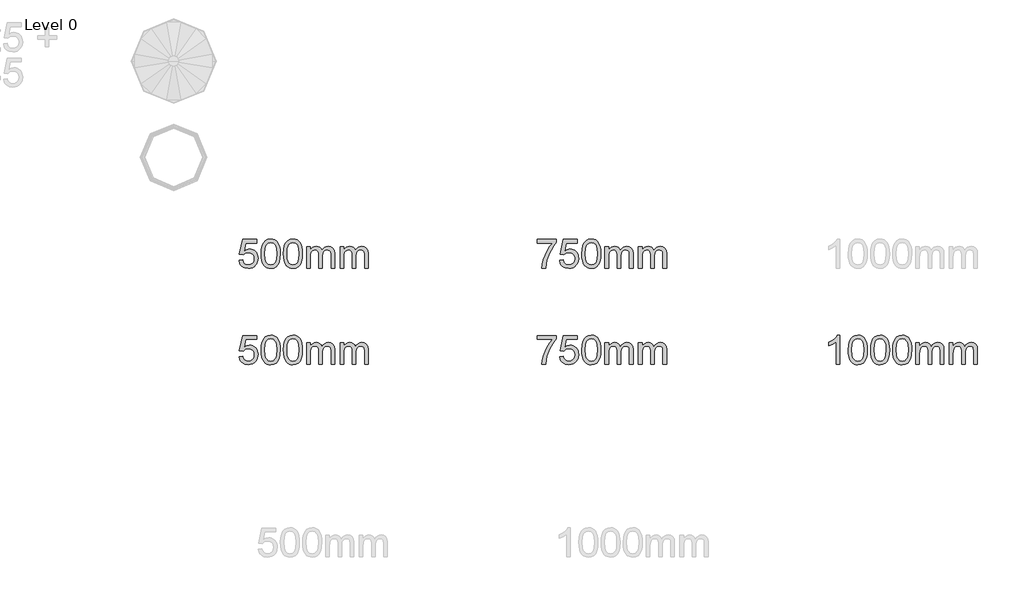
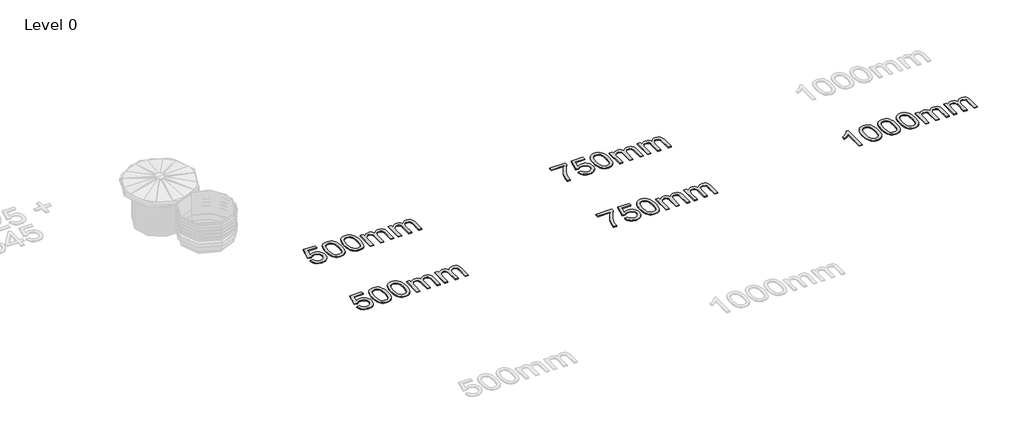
# One storey, part 14 of 25: 5 proxies.
"""IFC4 building model written with IfcOpenShell, lengths in millimetres."""

from ifc_helpers import new_model, si_unit, origin, origin_with_axes, place, context, project, spatial, polyline, outline, extrude, element, save

model = new_model("IFC4")

# Units and contexts
model_context = context("Model", 3, world=origin())
ifc_project = project(units=[si_unit("LENGTHUNIT", "METRE", prefix="MILLI")], contexts=[model_context])

# Site, building, storey
site = spatial("IfcSite", under=ifc_project)
building = spatial("IfcBuilding", under=site)
storey = spatial("IfcBuildingStorey", under=building, Name="Level 0", Elevation=0.0)

# Proxies
placement = place(None, origin())
element("IfcBuildingElementProxy", 1, Name="300mm Arial", ObjectType="300mm Arial", at=placement, inside=storey, context=model_context, shape_type="SweptSolid", body=[
    extrude(outline(polyline([(407.9461268, -3120.925676), (445.6172432, -3116.2167865), (452.5334247, -3138.8323321), (464.5999541, -3155.028337), (481.7616492, -3164.7680128), (503.9633276, -3168.0145714), (530.965866, -3163.4988199), (551.1993758, -3149.9515654), (563.8361223, -3128.9363065), (568.0483711, -3102.0165415), (564.1028367, -3076.669472), (552.2662336, -3057.2820909), (532.4465911, -3044.9764381), (504.5519388, -3040.8745539), (486.2774007, -3042.5116288), (471.4793474, -3047.4228534), (450.3261327, -3064.4190016), (412.6550164, -3059.710112), (445.6172432, -2904.3167573), (591.5928188, -2904.3167573), (591.5928188, -2941.9878736), (476.0778724, -2941.9878736), (459.964641, -3024.9820517), (486.8752089, -3008.6480911), (515.0733638, -3003.2034376), (533.4191791, -3004.8910962), (550.2704737, -3009.9540722), (565.6272478, -3018.3923654), (579.4895012, -3030.205976), (590.9651202, -3044.6729355), (599.1619909, -3061.0712754), (604.0801133, -3079.4009958), (605.7194875, -3099.6620967), (599.8149814, -3137.333213), (592.4343489, -3154.1270261), (582.1014634, -3169.5596758), (566.4480845, -3185.364806), (548.1827434, -3196.6541847), (527.3054402, -3203.427812), (503.8161748, -3205.6856877), (466.8164431, -3199.8823492), (451.1377723, -3192.6281762), (437.3398983, -3182.4723338), (425.8596807, -3169.92066), (417.1339797, -3155.4789924), (407.9461268, -3120.925676)])), origin_with_axes(), (0.0, 0.0, 1.0), 10.0),
    extrude(outline(polyline([(638.6817142, -3052.7203541), (641.4500262, -3004.4818275), (649.7549623, -2966.0105679), (663.5137489, -2936.717964), (682.6436126, -2916.0154047), (707.2825093, -2903.709752), (737.5683945, -2899.6078677), (760.7817484, -2902.0358889), (781.5670811, -2909.3199524), (798.9495054, -2921.1749497), (811.9541339, -2937.3157722), (821.7765832, -2957.6044643), (829.6124697, -2981.9030701), (834.7444235, -3012.7591724), (836.4550748, -3052.7203541), (833.714354, -3100.6829692), (825.4921914, -3139.0622584), (811.8161782, -3168.3824534), (792.7139056, -3189.1677861), (768.0198267, -3201.5562123), (737.5683945, -3205.6856877), (716.81985, -3203.892263), (698.4257502, -3198.5119888), (682.3860952, -3189.5448652), (668.700885, -3176.9908921), (655.5674978, -3154.2971715), (646.1865069, -3126.0208417), (640.5579124, -3092.1619025), (638.6817142, -3052.7203541)]), holes=[polyline([(676.3528305, -3052.6467777), (680.7674145, -3111.9033701), (686.2856444, -3132.1713688), (694.0111663, -3146.1991691), (713.7296412, -3162.5607208), (737.5683945, -3168.0145714), (761.4071478, -3162.5423267), (781.1256228, -3146.1255927), (788.8511447, -3132.0747997), (794.3693746, -3111.8113996), (798.7839585, -3052.6467777), (794.5165274, -2994.7237576), (789.1822384, -2974.5224375), (781.7142339, -2960.1612441), (762.0325472, -2942.9995491), (737.1269361, -2937.278984), (713.5457002, -2942.3189674), (694.5997775, -2957.4389174), (686.6167382, -2973.0739022), (680.9145673, -2994.1535405), (676.3528305, -3052.6467777)])]), origin_with_axes(), (0.0, 0.0, 1.0), 10.0),
    extrude(outline(polyline([(869.4173016, -3052.7203541), (872.1856136, -3004.4818275), (880.4905496, -2966.0105679), (894.2493363, -2936.717964), (913.3792, -2916.0154047), (938.0180966, -2903.709752), (968.3039819, -2899.6078677), (991.5173358, -2902.0358889), (1012.3026685, -2909.3199524), (1029.6850928, -2921.1749497), (1042.6897213, -2937.3157722), (1052.5121706, -2957.6044643), (1060.3480571, -2981.9030701), (1065.4800109, -3012.7591724), (1067.1906622, -3052.7203541), (1064.4499413, -3100.6829692), (1056.2277787, -3139.0622584), (1042.5517656, -3168.3824534), (1023.449493, -3189.1677861), (998.755414, -3201.5562123), (968.3039819, -3205.6856877), (947.5554374, -3203.892263), (929.1613376, -3198.5119888), (913.1216826, -3189.5448652), (899.4364724, -3176.9908921), (886.3030852, -3154.2971715), (876.9220943, -3126.0208417), (871.2934998, -3092.1619025), (869.4173016, -3052.7203541)]), holes=[polyline([(907.0884179, -3052.6467777), (911.5030018, -3111.9033701), (917.0212318, -3132.1713688), (924.7467537, -3146.1991691), (944.4652286, -3162.5607208), (968.3039819, -3168.0145714), (992.1427352, -3162.5423267), (1011.8612101, -3146.1255927), (1019.586732, -3132.0747997), (1025.104962, -3111.8113996), (1029.5195459, -3052.6467777), (1025.2521148, -2994.7237576), (1019.9178258, -2974.5224375), (1012.4498213, -2960.1612441), (992.7681346, -2942.9995491), (967.8625235, -2937.278984), (944.2812876, -2942.3189674), (925.3353649, -2957.4389174), (917.3523256, -2973.0739022), (911.6501546, -2994.1535405), (907.0884179, -3052.6467777)])]), origin_with_axes(), (0.0, 0.0, 1.0), 10.0),
    extrude(outline(polyline([(1109.570668, -3200.9767982), (1109.570668, -2979.6589899), (1147.2417844, -2979.6589899), (1147.2417844, -3016.0793074), (1158.5725498, -2999.3498737), (1173.1406768, -2986.2440776), (1190.4495247, -2977.7735947), (1210.0024527, -2974.9501003), (1230.9533324, -2977.828777), (1247.7471454, -2986.4648068), (1260.2919215, -3000.2879728), (1268.49569, -3018.7280578), (1282.2268854, -2999.5752014), (1297.8894614, -2985.8945897), (1315.4834178, -2977.6862227), (1335.0087547, -2974.9501003), (1363.3264713, -2979.50264), (1384.2681538, -2993.1602591), (1397.208403, -3016.2908395), (1401.5218194, -3049.2622634), (1401.5218194, -3200.9767982), (1363.8507031, -3200.9767982), (1363.8507031, -3065.4490712), (1360.3558242, -3033.9951606), (1355.4445995, -3025.3223425), (1347.7006835, -3018.5073286), (1337.7402785, -3014.0927446), (1326.1795868, -3012.6212166), (1305.7713331, -3016.3920071), (1289.1338699, -3027.7043784), (1278.0698189, -3047.3308829), (1274.3818019, -3076.0440726), (1274.3818019, -3200.9767982), (1236.7106856, -3200.9767982), (1236.7106856, -3061.2552164), (1234.5309848, -3039.9548489), (1227.9918823, -3024.7613225), (1216.4863729, -3015.6562431), (1199.4074513, -3012.6212166), (1184.8945066, -3014.6445676), (1171.521996, -3020.7146205), (1160.4855362, -3030.6842226), (1152.9807435, -3044.406221), (1148.6765241, -3063.4441143), (1147.2417844, -3089.3614008), (1147.2417844, -3200.9767982), (1109.570668, -3200.9767982)])), origin_with_axes(), (0.0, 0.0, 1.0), 10.0),
    extrude(outline(polyline([(1458.0284939, -3200.9767982), (1458.0284939, -2979.6589899), (1495.6996102, -2979.6589899), (1495.6996102, -3016.0793074), (1507.0303756, -2999.3498737), (1521.5985026, -2986.2440776), (1538.9073505, -2977.7735947), (1558.4602786, -2974.9501003), (1579.4111582, -2977.828777), (1596.2049713, -2986.4648068), (1608.7497473, -3000.2879728), (1616.9535158, -3018.7280578), (1630.6847113, -2999.5752014), (1646.3472872, -2985.8945897), (1663.9412436, -2977.6862227), (1683.4665805, -2974.9501003), (1711.7842971, -2979.50264), (1732.7259797, -2993.1602591), (1745.6662289, -3016.2908395), (1749.9796452, -3049.2622634), (1749.9796452, -3200.9767982), (1712.3085289, -3200.9767982), (1712.3085289, -3065.4490712), (1708.81365, -3033.9951606), (1703.9024254, -3025.3223425), (1696.1585094, -3018.5073286), (1686.1981043, -3014.0927446), (1674.6374126, -3012.6212166), (1654.229159, -3016.3920071), (1637.5916957, -3027.7043784), (1626.5276447, -3047.3308829), (1622.8396277, -3076.0440726), (1622.8396277, -3200.9767982), (1585.1685114, -3200.9767982), (1585.1685114, -3061.2552164), (1582.9888106, -3039.9548489), (1576.4497081, -3024.7613225), (1564.9441987, -3015.6562431), (1547.8652771, -3012.6212166), (1533.3523324, -3014.6445676), (1519.9798219, -3020.7146205), (1508.943362, -3030.6842226), (1501.4385693, -3044.406221), (1497.13435, -3063.4441143), (1495.6996102, -3089.3614008), (1495.6996102, -3200.9767982), (1458.0284939, -3200.9767982)])), origin_with_axes(), (0.0, 0.0, 1.0), 10.0),
])
element("IfcBuildingElementProxy", 2, Name="300mm Arial", ObjectType="300mm Arial", at=placement, inside=storey, context=model_context, shape_type="SweptSolid", body=[
    extrude(outline(polyline([(3508.6610417, -2941.9878736), (3508.6610417, -2904.3167573), (3706.4344023, -2904.3167573), (3706.4344023, -2934.7773865), (3678.2454444, -2970.452743), (3650.332398, -3015.82179), (3625.7118955, -3066.7458552), (3607.4005692, -3119.0862661), (3598.4242485, -3158.2473044), (3593.4210534, -3200.9767982), (3555.7499371, -3200.9767982), (3559.8242301, -3162.1468536), (3570.7227343, -3115.9960573), (3588.1511438, -3067.076949), (3611.8151531, -3019.9420684), (3639.443091, -2977.3321363), (3668.763286, -2941.9878736), (3508.6610417, -2941.9878736)])), origin_with_axes(), (0.0, 0.0, 1.0), 10.0),
    extrude(outline(polyline([(3739.396629, -3120.925676), (3777.0677453, -3116.2167865), (3783.9839269, -3138.8323321), (3796.0504563, -3155.028337), (3813.2121514, -3164.7680128), (3835.4138298, -3168.0145714), (3862.4163682, -3163.4988199), (3882.649878, -3149.9515654), (3895.2866245, -3128.9363065), (3899.4988733, -3102.0165415), (3895.5533389, -3076.669472), (3883.7167358, -3057.2820909), (3863.8970933, -3044.9764381), (3836.002441, -3040.8745539), (3817.7279029, -3042.5116288), (3802.9298496, -3047.4228534), (3781.7766349, -3064.4190016), (3744.1055186, -3059.710112), (3777.0677453, -2904.3167573), (3923.043321, -2904.3167573), (3923.043321, -2941.9878736), (3807.5283745, -2941.9878736), (3791.4151432, -3024.9820517), (3818.3257111, -3008.6480911), (3846.523866, -3003.2034376), (3864.8696813, -3004.8910962), (3881.7209759, -3009.9540722), (3897.07775, -3018.3923654), (3910.9400034, -3030.205976), (3922.4156224, -3044.6729355), (3930.6124931, -3061.0712754), (3935.5306155, -3079.4009958), (3937.1699896, -3099.6620967), (3931.2654836, -3137.333213), (3923.8848511, -3154.1270261), (3913.5519656, -3169.5596758), (3897.8985867, -3185.364806), (3879.6332456, -3196.6541847), (3858.7559424, -3203.427812), (3835.266677, -3205.6856877), (3798.2669453, -3199.8823492), (3782.5882745, -3192.6281762), (3768.7904005, -3182.4723338), (3757.3101829, -3169.92066), (3748.5844819, -3155.4789924), (3739.396629, -3120.925676)])), origin_with_axes(), (0.0, 0.0, 1.0), 10.0),
    extrude(outline(polyline([(3970.1322164, -3052.7203541), (3972.9005284, -3004.4818275), (3981.2054645, -2966.0105679), (3994.9642511, -2936.717964), (4014.0941148, -2916.0154047), (4038.7330115, -2903.709752), (4069.0188967, -2899.6078677), (4092.2322506, -2902.0358889), (4113.0175833, -2909.3199524), (4130.4000076, -2921.1749497), (4143.4046361, -2937.3157722), (4153.2270854, -2957.6044643), (4161.0629719, -2981.9030701), (4166.1949257, -3012.7591724), (4167.905577, -3052.7203541), (4165.1648562, -3100.6829692), (4156.9426936, -3139.0622584), (4143.2666804, -3168.3824534), (4124.1644078, -3189.1677861), (4099.4703289, -3201.5562123), (4069.0188967, -3205.6856877), (4048.2703522, -3203.892263), (4029.8762524, -3198.5119888), (4013.8365974, -3189.5448652), (4000.1513872, -3176.9908921), (3987.018, -3154.2971715), (3977.6370091, -3126.0208417), (3972.0084146, -3092.1619025), (3970.1322164, -3052.7203541)]), holes=[polyline([(4007.8033327, -3052.6467777), (4012.2179167, -3111.9033701), (4017.7361466, -3132.1713688), (4025.4616685, -3146.1991691), (4045.1801434, -3162.5607208), (4069.0188967, -3168.0145714), (4092.85765, -3162.5423267), (4112.576125, -3146.1255927), (4120.3016468, -3132.0747997), (4125.8198768, -3111.8113996), (4130.2344607, -3052.6467777), (4125.9670296, -2994.7237576), (4120.6327406, -2974.5224375), (4113.1647361, -2960.1612441), (4093.4830494, -2942.9995491), (4068.5774383, -2937.278984), (4044.9962024, -2942.3189674), (4026.0502797, -2957.4389174), (4018.0672404, -2973.0739022), (4012.3650695, -2994.1535405), (4007.8033327, -3052.6467777)])]), origin_with_axes(), (0.0, 0.0, 1.0), 10.0),
    extrude(outline(polyline([(4210.2855829, -3200.9767982), (4210.2855829, -2979.6589899), (4247.9566992, -2979.6589899), (4247.9566992, -3016.0793074), (4259.2874646, -2999.3498737), (4273.8555916, -2986.2440776), (4291.1644395, -2977.7735947), (4310.7173676, -2974.9501003), (4331.6682472, -2977.828777), (4348.4620603, -2986.4648068), (4361.0068363, -3000.2879728), (4369.2106048, -3018.7280578), (4382.9418003, -2999.5752014), (4398.6043762, -2985.8945897), (4416.1983326, -2977.6862227), (4435.7236695, -2974.9501003), (4464.0413861, -2979.50264), (4484.9830687, -2993.1602591), (4497.9233178, -3016.2908395), (4502.2367342, -3049.2622634), (4502.2367342, -3200.9767982), (4464.5656179, -3200.9767982), (4464.5656179, -3065.4490712), (4461.070739, -3033.9951606), (4456.1595143, -3025.3223425), (4448.4155983, -3018.5073286), (4438.4551933, -3014.0927446), (4426.8945016, -3012.6212166), (4406.4862479, -3016.3920071), (4389.8487847, -3027.7043784), (4378.7847337, -3047.3308829), (4375.0967167, -3076.0440726), (4375.0967167, -3200.9767982), (4337.4256004, -3200.9767982), (4337.4256004, -3061.2552164), (4335.2458996, -3039.9548489), (4328.7067971, -3024.7613225), (4317.2012877, -3015.6562431), (4300.1223661, -3012.6212166), (4285.6094214, -3014.6445676), (4272.2369109, -3020.7146205), (4261.200451, -3030.6842226), (4253.6956583, -3044.406221), (4249.391439, -3063.4441143), (4247.9566992, -3089.3614008), (4247.9566992, -3200.9767982), (4210.2855829, -3200.9767982)])), origin_with_axes(), (0.0, 0.0, 1.0), 10.0),
    extrude(outline(polyline([(4558.7434087, -3200.9767982), (4558.7434087, -2979.6589899), (4596.414525, -2979.6589899), (4596.414525, -3016.0793074), (4607.7452905, -2999.3498737), (4622.3134175, -2986.2440776), (4639.6222653, -2977.7735947), (4659.1751934, -2974.9501003), (4680.126073, -2977.828777), (4696.9198861, -2986.4648068), (4709.4646621, -3000.2879728), (4717.6684306, -3018.7280578), (4731.3996261, -2999.5752014), (4747.062202, -2985.8945897), (4764.6561585, -2977.6862227), (4784.1814953, -2974.9501003), (4812.4992119, -2979.50264), (4833.4408945, -2993.1602591), (4846.3811437, -3016.2908395), (4850.6945601, -3049.2622634), (4850.6945601, -3200.9767982), (4813.0234438, -3200.9767982), (4813.0234438, -3065.4490712), (4809.5285648, -3033.9951606), (4804.6173402, -3025.3223425), (4796.8734242, -3018.5073286), (4786.9130192, -3014.0927446), (4775.3523275, -3012.6212166), (4754.9440738, -3016.3920071), (4738.3066105, -3027.7043784), (4727.2425595, -3047.3308829), (4723.5545425, -3076.0440726), (4723.5545425, -3200.9767982), (4685.8834262, -3200.9767982), (4685.8834262, -3061.2552164), (4683.7037254, -3039.9548489), (4677.1646229, -3024.7613225), (4665.6591135, -3015.6562431), (4648.5801919, -3012.6212166), (4634.0672472, -3014.6445676), (4620.6947367, -3020.7146205), (4609.6582768, -3030.6842226), (4602.1534841, -3044.406221), (4597.8492648, -3063.4441143), (4596.414525, -3089.3614008), (4596.414525, -3200.9767982), (4558.7434087, -3200.9767982)])), origin_with_axes(), (0.0, 0.0, 1.0), 10.0),
])
element("IfcBuildingElementProxy", 3, Name="300mm Arial", ObjectType="300mm Arial", at=placement, inside=storey, context=model_context, shape_type="SweptSolid", body=[
    extrude(outline(polyline([(6649.9277278, -3200.9767982), (6612.2566115, -3200.9767982), (6612.2566115, -2966.1209325), (6576.572058, -2991.5415783), (6536.9143789, -3010.5610775), (6536.9143789, -2974.9501003), (6566.5012884, -2958.8552631), (6592.1334664, -2939.7070052), (6612.339385, -2919.3447368), (6625.6475161, -2899.6078677), (6649.9277278, -2899.6078677), (6649.9277278, -3200.9767982)])), origin_with_axes(), (0.0, 0.0, 1.0), 10.0),
    extrude(outline(polyline([(6739.396629, -3052.7203541), (6742.1649411, -3004.4818275), (6750.4698771, -2966.0105679), (6764.2286637, -2936.717964), (6783.3585275, -2916.0154047), (6807.9974241, -2903.709752), (6838.2833093, -2899.6078677), (6861.4966632, -2902.0358889), (6882.281996, -2909.3199524), (6899.6644202, -2921.1749497), (6912.6690488, -2937.3157722), (6922.491498, -2957.6044643), (6930.3273845, -2981.9030701), (6935.4593384, -3012.7591724), (6937.1699896, -3052.7203541), (6934.4292688, -3100.6829692), (6926.2071062, -3139.0622584), (6912.531093, -3168.3824534), (6893.4288204, -3189.1677861), (6868.7347415, -3201.5562123), (6838.2833093, -3205.6856877), (6817.5347648, -3203.892263), (6799.1406651, -3198.5119888), (6783.1010101, -3189.5448652), (6769.4157998, -3176.9908921), (6756.2824126, -3154.2971715), (6746.9014217, -3126.0208417), (6741.2728272, -3092.1619025), (6739.396629, -3052.7203541)]), holes=[polyline([(6777.0677453, -3052.6467777), (6781.4823293, -3111.9033701), (6787.0005592, -3132.1713688), (6794.7260811, -3146.1991691), (6814.4445561, -3162.5607208), (6838.2833093, -3168.0145714), (6862.1220626, -3162.5423267), (6881.8405376, -3146.1255927), (6889.5660595, -3132.0747997), (6895.0842894, -3111.8113996), (6899.4988733, -3052.6467777), (6895.2314422, -2994.7237576), (6889.8971533, -2974.5224375), (6882.4291488, -2960.1612441), (6862.747462, -2942.9995491), (6837.841851, -2937.278984), (6814.2606151, -2942.3189674), (6795.3146923, -2957.4389174), (6787.331653, -2973.0739022), (6781.6294821, -2994.1535405), (6777.0677453, -3052.6467777)])]), origin_with_axes(), (0.0, 0.0, 1.0), 10.0),
    extrude(outline(polyline([(6970.1322164, -3052.7203541), (6972.9005284, -3004.4818275), (6981.2054645, -2966.0105679), (6994.9642511, -2936.717964), (7014.0941148, -2916.0154047), (7038.7330115, -2903.709752), (7069.0188967, -2899.6078677), (7092.2322506, -2902.0358889), (7113.0175833, -2909.3199524), (7130.4000076, -2921.1749497), (7143.4046361, -2937.3157722), (7153.2270854, -2957.6044643), (7161.0629719, -2981.9030701), (7166.1949257, -3012.7591724), (7167.905577, -3052.7203541), (7165.1648562, -3100.6829692), (7156.9426936, -3139.0622584), (7143.2666804, -3168.3824534), (7124.1644078, -3189.1677861), (7099.4703289, -3201.5562123), (7069.0188967, -3205.6856877), (7048.2703522, -3203.892263), (7029.8762524, -3198.5119888), (7013.8365974, -3189.5448652), (7000.1513872, -3176.9908921), (6987.018, -3154.2971715), (6977.6370091, -3126.0208417), (6972.0084146, -3092.1619025), (6970.1322164, -3052.7203541)]), holes=[polyline([(7007.8033327, -3052.6467777), (7012.2179167, -3111.9033701), (7017.7361466, -3132.1713688), (7025.4616685, -3146.1991691), (7045.1801434, -3162.5607208), (7069.0188967, -3168.0145714), (7092.85765, -3162.5423267), (7112.576125, -3146.1255927), (7120.3016468, -3132.0747997), (7125.8198768, -3111.8113996), (7130.2344607, -3052.6467777), (7125.9670296, -2994.7237576), (7120.6327406, -2974.5224375), (7113.1647361, -2960.1612441), (7093.4830494, -2942.9995491), (7068.5774383, -2937.278984), (7044.9962024, -2942.3189674), (7026.0502797, -2957.4389174), (7018.0672404, -2973.0739022), (7012.3650695, -2994.1535405), (7007.8033327, -3052.6467777)])]), origin_with_axes(), (0.0, 0.0, 1.0), 10.0),
    extrude(outline(polyline([(7200.8678038, -3052.7203541), (7203.6361158, -3004.4818275), (7211.9410518, -2966.0105679), (7225.6998385, -2936.717964), (7244.8297022, -2916.0154047), (7269.4685988, -2903.709752), (7299.7544841, -2899.6078677), (7322.967838, -2902.0358889), (7343.7531707, -2909.3199524), (7361.135595, -2921.1749497), (7374.1402235, -2937.3157722), (7383.9626728, -2957.6044643), (7391.7985593, -2981.9030701), (7396.9305131, -3012.7591724), (7398.6411644, -3052.7203541), (7395.9004435, -3100.6829692), (7387.6782809, -3139.0622584), (7374.0022678, -3168.3824534), (7354.8999952, -3189.1677861), (7330.2059162, -3201.5562123), (7299.7544841, -3205.6856877), (7279.0059396, -3203.892263), (7260.6118398, -3198.5119888), (7244.5721848, -3189.5448652), (7230.8869746, -3176.9908921), (7217.7535874, -3154.2971715), (7208.3725965, -3126.0208417), (7202.744002, -3092.1619025), (7200.8678038, -3052.7203541)]), holes=[polyline([(7238.5389201, -3052.6467777), (7242.953504, -3111.9033701), (7248.471734, -3132.1713688), (7256.1972559, -3146.1991691), (7275.9157308, -3162.5607208), (7299.7544841, -3168.0145714), (7323.5932374, -3162.5423267), (7343.3117123, -3146.1255927), (7351.0372342, -3132.0747997), (7356.5554642, -3111.8113996), (7360.9700481, -3052.6467777), (7356.7026169, -2994.7237576), (7351.368328, -2974.5224375), (7343.9003235, -2960.1612441), (7324.2186368, -2942.9995491), (7299.3130257, -2937.278984), (7275.7317898, -2942.3189674), (7256.7858671, -2957.4389174), (7248.8028278, -2973.0739022), (7243.1006568, -2994.1535405), (7238.5389201, -3052.6467777)])]), origin_with_axes(), (0.0, 0.0, 1.0), 10.0),
    extrude(outline(polyline([(7441.0211702, -3200.9767982), (7441.0211702, -2979.6589899), (7478.6922866, -2979.6589899), (7478.6922866, -3016.0793074), (7490.023052, -2999.3498737), (7504.591179, -2986.2440776), (7521.9000269, -2977.7735947), (7541.4529549, -2974.9501003), (7562.4038346, -2977.828777), (7579.1976476, -2986.4648068), (7591.7424237, -3000.2879728), (7599.9461922, -3018.7280578), (7613.6773876, -2999.5752014), (7629.3399636, -2985.8945897), (7646.93392, -2977.6862227), (7666.4592569, -2974.9501003), (7694.7769735, -2979.50264), (7715.718656, -2993.1602591), (7728.6589052, -3016.2908395), (7732.9723216, -3049.2622634), (7732.9723216, -3200.9767982), (7695.3012053, -3200.9767982), (7695.3012053, -3065.4490712), (7691.8063264, -3033.9951606), (7686.8951017, -3025.3223425), (7679.1511857, -3018.5073286), (7669.1907807, -3014.0927446), (7657.630089, -3012.6212166), (7637.2218353, -3016.3920071), (7620.5843721, -3027.7043784), (7609.5203211, -3047.3308829), (7605.8323041, -3076.0440726), (7605.8323041, -3200.9767982), (7568.1611878, -3200.9767982), (7568.1611878, -3061.2552164), (7565.981487, -3039.9548489), (7559.4423845, -3024.7613225), (7547.9368751, -3015.6562431), (7530.8579535, -3012.6212166), (7516.3450088, -3014.6445676), (7502.9724982, -3020.7146205), (7491.9360384, -3030.6842226), (7484.4312457, -3044.406221), (7480.1270263, -3063.4441143), (7478.6922866, -3089.3614008), (7478.6922866, -3200.9767982), (7441.0211702, -3200.9767982)])), origin_with_axes(), (0.0, 0.0, 1.0), 10.0),
    extrude(outline(polyline([(7789.4789961, -3200.9767982), (7789.4789961, -2979.6589899), (7827.1501124, -2979.6589899), (7827.1501124, -3016.0793074), (7838.4808778, -2999.3498737), (7853.0490048, -2986.2440776), (7870.3578527, -2977.7735947), (7889.9107808, -2974.9501003), (7910.8616604, -2977.828777), (7927.6554735, -2986.4648068), (7940.2002495, -3000.2879728), (7948.404018, -3018.7280578), (7962.1352135, -2999.5752014), (7977.7977894, -2985.8945897), (7995.3917458, -2977.6862227), (8014.9170827, -2974.9501003), (8043.2347993, -2979.50264), (8064.1764819, -2993.1602591), (8077.1167311, -3016.2908395), (8081.4301474, -3049.2622634), (8081.4301474, -3200.9767982), (8043.7590311, -3200.9767982), (8043.7590311, -3065.4490712), (8040.2641522, -3033.9951606), (8035.3529276, -3025.3223425), (8027.6090116, -3018.5073286), (8017.6486065, -3014.0927446), (8006.0879148, -3012.6212166), (7985.6796612, -3016.3920071), (7969.0421979, -3027.7043784), (7957.9781469, -3047.3308829), (7954.2901299, -3076.0440726), (7954.2901299, -3200.9767982), (7916.6190136, -3200.9767982), (7916.6190136, -3061.2552164), (7914.4393128, -3039.9548489), (7907.9002103, -3024.7613225), (7896.3947009, -3015.6562431), (7879.3157793, -3012.6212166), (7864.8028346, -3014.6445676), (7851.4303241, -3020.7146205), (7840.3938642, -3030.6842226), (7832.8890715, -3044.406221), (7828.5848522, -3063.4441143), (7827.1501124, -3089.3614008), (7827.1501124, -3200.9767982), (7789.4789961, -3200.9767982)])), origin_with_axes(), (0.0, 0.0, 1.0), 10.0),
])
element("IfcBuildingElementProxy", 4, Name="300mm Arial", ObjectType="300mm Arial", at=placement, inside=storey, context=model_context, shape_type="SweptSolid", body=[
    extrude(outline(polyline([(407.9461268, -2120.925676), (445.6172432, -2116.2167865), (452.5334247, -2138.8323321), (464.5999541, -2155.028337), (481.7616492, -2164.7680128), (503.9633276, -2168.0145714), (530.965866, -2163.4988199), (551.1993758, -2149.9515654), (563.8361223, -2128.9363065), (568.0483711, -2102.0165415), (564.1028367, -2076.669472), (552.2662336, -2057.2820909), (532.4465911, -2044.9764381), (504.5519388, -2040.8745539), (486.2774007, -2042.5116288), (471.4793474, -2047.4228534), (450.3261327, -2064.4190016), (412.6550164, -2059.710112), (445.6172432, -1904.3167573), (591.5928188, -1904.3167573), (591.5928188, -1941.9878736), (476.0778724, -1941.9878736), (459.964641, -2024.9820517), (486.8752089, -2008.6480911), (515.0733638, -2003.2034376), (533.4191791, -2004.8910962), (550.2704737, -2009.9540722), (565.6272478, -2018.3923654), (579.4895012, -2030.205976), (590.9651202, -2044.6729355), (599.1619909, -2061.0712754), (604.0801133, -2079.4009958), (605.7194875, -2099.6620967), (599.8149814, -2137.333213), (592.4343489, -2154.1270261), (582.1014634, -2169.5596758), (566.4480845, -2185.364806), (548.1827434, -2196.6541847), (527.3054402, -2203.427812), (503.8161748, -2205.6856877), (466.8164431, -2199.8823492), (451.1377723, -2192.6281762), (437.3398983, -2182.4723338), (425.8596807, -2169.92066), (417.1339797, -2155.4789924), (407.9461268, -2120.925676)])), origin_with_axes(), (0.0, 0.0, 1.0), 10.0),
    extrude(outline(polyline([(638.6817142, -2052.7203541), (641.4500262, -2004.4818275), (649.7549623, -1966.0105679), (663.5137489, -1936.717964), (682.6436126, -1916.0154047), (707.2825093, -1903.709752), (737.5683945, -1899.6078677), (760.7817484, -1902.0358889), (781.5670811, -1909.3199524), (798.9495054, -1921.1749497), (811.9541339, -1937.3157722), (821.7765832, -1957.6044643), (829.6124697, -1981.9030701), (834.7444235, -2012.7591724), (836.4550748, -2052.7203541), (833.714354, -2100.6829692), (825.4921914, -2139.0622584), (811.8161782, -2168.3824534), (792.7139056, -2189.1677861), (768.0198267, -2201.5562123), (737.5683945, -2205.6856877), (716.81985, -2203.892263), (698.4257502, -2198.5119888), (682.3860952, -2189.5448652), (668.700885, -2176.9908921), (655.5674978, -2154.2971715), (646.1865069, -2126.0208417), (640.5579124, -2092.1619025), (638.6817142, -2052.7203541)]), holes=[polyline([(676.3528305, -2052.6467777), (680.7674145, -2111.9033701), (686.2856444, -2132.1713688), (694.0111663, -2146.1991691), (713.7296412, -2162.5607208), (737.5683945, -2168.0145714), (761.4071478, -2162.5423267), (781.1256228, -2146.1255927), (788.8511447, -2132.0747997), (794.3693746, -2111.8113996), (798.7839585, -2052.6467777), (794.5165274, -1994.7237576), (789.1822384, -1974.5224375), (781.7142339, -1960.1612441), (762.0325472, -1942.9995491), (737.1269361, -1937.278984), (713.5457002, -1942.3189674), (694.5997775, -1957.4389174), (686.6167382, -1973.0739022), (680.9145673, -1994.1535405), (676.3528305, -2052.6467777)])]), origin_with_axes(), (0.0, 0.0, 1.0), 10.0),
    extrude(outline(polyline([(869.4173016, -2052.7203541), (872.1856136, -2004.4818275), (880.4905496, -1966.0105679), (894.2493363, -1936.717964), (913.3792, -1916.0154047), (938.0180966, -1903.709752), (968.3039819, -1899.6078677), (991.5173358, -1902.0358889), (1012.3026685, -1909.3199524), (1029.6850928, -1921.1749497), (1042.6897213, -1937.3157722), (1052.5121706, -1957.6044643), (1060.3480571, -1981.9030701), (1065.4800109, -2012.7591724), (1067.1906622, -2052.7203541), (1064.4499413, -2100.6829692), (1056.2277787, -2139.0622584), (1042.5517656, -2168.3824534), (1023.449493, -2189.1677861), (998.755414, -2201.5562123), (968.3039819, -2205.6856877), (947.5554374, -2203.892263), (929.1613376, -2198.5119888), (913.1216826, -2189.5448652), (899.4364724, -2176.9908921), (886.3030852, -2154.2971715), (876.9220943, -2126.0208417), (871.2934998, -2092.1619025), (869.4173016, -2052.7203541)]), holes=[polyline([(907.0884179, -2052.6467777), (911.5030018, -2111.9033701), (917.0212318, -2132.1713688), (924.7467537, -2146.1991691), (944.4652286, -2162.5607208), (968.3039819, -2168.0145714), (992.1427352, -2162.5423267), (1011.8612101, -2146.1255927), (1019.586732, -2132.0747997), (1025.104962, -2111.8113996), (1029.5195459, -2052.6467777), (1025.2521148, -1994.7237576), (1019.9178258, -1974.5224375), (1012.4498213, -1960.1612441), (992.7681346, -1942.9995491), (967.8625235, -1937.278984), (944.2812876, -1942.3189674), (925.3353649, -1957.4389174), (917.3523256, -1973.0739022), (911.6501546, -1994.1535405), (907.0884179, -2052.6467777)])]), origin_with_axes(), (0.0, 0.0, 1.0), 10.0),
    extrude(outline(polyline([(1109.570668, -2200.9767982), (1109.570668, -1979.6589899), (1147.2417844, -1979.6589899), (1147.2417844, -2016.0793074), (1158.5725498, -1999.3498737), (1173.1406768, -1986.2440776), (1190.4495247, -1977.7735947), (1210.0024527, -1974.9501003), (1230.9533324, -1977.828777), (1247.7471454, -1986.4648068), (1260.2919215, -2000.2879728), (1268.49569, -2018.7280578), (1282.2268854, -1999.5752014), (1297.8894614, -1985.8945897), (1315.4834178, -1977.6862227), (1335.0087547, -1974.9501003), (1363.3264713, -1979.50264), (1384.2681538, -1993.1602591), (1397.208403, -2016.2908395), (1401.5218194, -2049.2622634), (1401.5218194, -2200.9767982), (1363.8507031, -2200.9767982), (1363.8507031, -2065.4490712), (1360.3558242, -2033.9951606), (1355.4445995, -2025.3223425), (1347.7006835, -2018.5073286), (1337.7402785, -2014.0927446), (1326.1795868, -2012.6212166), (1305.7713331, -2016.3920071), (1289.1338699, -2027.7043784), (1278.0698189, -2047.3308829), (1274.3818019, -2076.0440726), (1274.3818019, -2200.9767982), (1236.7106856, -2200.9767982), (1236.7106856, -2061.2552164), (1234.5309848, -2039.9548489), (1227.9918823, -2024.7613225), (1216.4863729, -2015.6562431), (1199.4074513, -2012.6212166), (1184.8945066, -2014.6445676), (1171.521996, -2020.7146205), (1160.4855362, -2030.6842226), (1152.9807435, -2044.406221), (1148.6765241, -2063.4441143), (1147.2417844, -2089.3614008), (1147.2417844, -2200.9767982), (1109.570668, -2200.9767982)])), origin_with_axes(), (0.0, 0.0, 1.0), 10.0),
    extrude(outline(polyline([(1458.0284939, -2200.9767982), (1458.0284939, -1979.6589899), (1495.6996102, -1979.6589899), (1495.6996102, -2016.0793074), (1507.0303756, -1999.3498737), (1521.5985026, -1986.2440776), (1538.9073505, -1977.7735947), (1558.4602786, -1974.9501003), (1579.4111582, -1977.828777), (1596.2049713, -1986.4648068), (1608.7497473, -2000.2879728), (1616.9535158, -2018.7280578), (1630.6847113, -1999.5752014), (1646.3472872, -1985.8945897), (1663.9412436, -1977.6862227), (1683.4665805, -1974.9501003), (1711.7842971, -1979.50264), (1732.7259797, -1993.1602591), (1745.6662289, -2016.2908395), (1749.9796452, -2049.2622634), (1749.9796452, -2200.9767982), (1712.3085289, -2200.9767982), (1712.3085289, -2065.4490712), (1708.81365, -2033.9951606), (1703.9024254, -2025.3223425), (1696.1585094, -2018.5073286), (1686.1981043, -2014.0927446), (1674.6374126, -2012.6212166), (1654.229159, -2016.3920071), (1637.5916957, -2027.7043784), (1626.5276447, -2047.3308829), (1622.8396277, -2076.0440726), (1622.8396277, -2200.9767982), (1585.1685114, -2200.9767982), (1585.1685114, -2061.2552164), (1582.9888106, -2039.9548489), (1576.4497081, -2024.7613225), (1564.9441987, -2015.6562431), (1547.8652771, -2012.6212166), (1533.3523324, -2014.6445676), (1519.9798219, -2020.7146205), (1508.943362, -2030.6842226), (1501.4385693, -2044.406221), (1497.13435, -2063.4441143), (1495.6996102, -2089.3614008), (1495.6996102, -2200.9767982), (1458.0284939, -2200.9767982)])), origin_with_axes(), (0.0, 0.0, 1.0), 10.0),
])
element("IfcBuildingElementProxy", 5, Name="300mm Arial", ObjectType="300mm Arial", at=placement, inside=storey, context=model_context, shape_type="SweptSolid", body=[
    extrude(outline(polyline([(3508.6610417, -1941.9878736), (3508.6610417, -1904.3167573), (3706.4344023, -1904.3167573), (3706.4344023, -1934.7773865), (3678.2454444, -1970.452743), (3650.332398, -2015.82179), (3625.7118955, -2066.7458552), (3607.4005692, -2119.0862661), (3598.4242485, -2158.2473044), (3593.4210534, -2200.9767982), (3555.7499371, -2200.9767982), (3559.8242301, -2162.1468536), (3570.7227343, -2115.9960573), (3588.1511438, -2067.076949), (3611.8151531, -2019.9420684), (3639.443091, -1977.3321363), (3668.763286, -1941.9878736), (3508.6610417, -1941.9878736)])), origin_with_axes(), (0.0, 0.0, 1.0), 10.0),
    extrude(outline(polyline([(3739.396629, -2120.925676), (3777.0677453, -2116.2167865), (3783.9839269, -2138.8323321), (3796.0504563, -2155.028337), (3813.2121514, -2164.7680128), (3835.4138298, -2168.0145714), (3862.4163682, -2163.4988199), (3882.649878, -2149.9515654), (3895.2866245, -2128.9363065), (3899.4988733, -2102.0165415), (3895.5533389, -2076.669472), (3883.7167358, -2057.2820909), (3863.8970933, -2044.9764381), (3836.002441, -2040.8745539), (3817.7279029, -2042.5116288), (3802.9298496, -2047.4228534), (3781.7766349, -2064.4190016), (3744.1055186, -2059.710112), (3777.0677453, -1904.3167573), (3923.043321, -1904.3167573), (3923.043321, -1941.9878736), (3807.5283745, -1941.9878736), (3791.4151432, -2024.9820517), (3818.3257111, -2008.6480911), (3846.523866, -2003.2034376), (3864.8696813, -2004.8910962), (3881.7209759, -2009.9540722), (3897.07775, -2018.3923654), (3910.9400034, -2030.205976), (3922.4156224, -2044.6729355), (3930.6124931, -2061.0712754), (3935.5306155, -2079.4009958), (3937.1699896, -2099.6620967), (3931.2654836, -2137.333213), (3923.8848511, -2154.1270261), (3913.5519656, -2169.5596758), (3897.8985867, -2185.364806), (3879.6332456, -2196.6541847), (3858.7559424, -2203.427812), (3835.266677, -2205.6856877), (3798.2669453, -2199.8823492), (3782.5882745, -2192.6281762), (3768.7904005, -2182.4723338), (3757.3101829, -2169.92066), (3748.5844819, -2155.4789924), (3739.396629, -2120.925676)])), origin_with_axes(), (0.0, 0.0, 1.0), 10.0),
    extrude(outline(polyline([(3970.1322164, -2052.7203541), (3972.9005284, -2004.4818275), (3981.2054645, -1966.0105679), (3994.9642511, -1936.717964), (4014.0941148, -1916.0154047), (4038.7330115, -1903.709752), (4069.0188967, -1899.6078677), (4092.2322506, -1902.0358889), (4113.0175833, -1909.3199524), (4130.4000076, -1921.1749497), (4143.4046361, -1937.3157722), (4153.2270854, -1957.6044643), (4161.0629719, -1981.9030701), (4166.1949257, -2012.7591724), (4167.905577, -2052.7203541), (4165.1648562, -2100.6829692), (4156.9426936, -2139.0622584), (4143.2666804, -2168.3824534), (4124.1644078, -2189.1677861), (4099.4703289, -2201.5562123), (4069.0188967, -2205.6856877), (4048.2703522, -2203.892263), (4029.8762524, -2198.5119888), (4013.8365974, -2189.5448652), (4000.1513872, -2176.9908921), (3987.018, -2154.2971715), (3977.6370091, -2126.0208417), (3972.0084146, -2092.1619025), (3970.1322164, -2052.7203541)]), holes=[polyline([(4007.8033327, -2052.6467777), (4012.2179167, -2111.9033701), (4017.7361466, -2132.1713688), (4025.4616685, -2146.1991691), (4045.1801434, -2162.5607208), (4069.0188967, -2168.0145714), (4092.85765, -2162.5423267), (4112.576125, -2146.1255927), (4120.3016468, -2132.0747997), (4125.8198768, -2111.8113996), (4130.2344607, -2052.6467777), (4125.9670296, -1994.7237576), (4120.6327406, -1974.5224375), (4113.1647361, -1960.1612441), (4093.4830494, -1942.9995491), (4068.5774383, -1937.278984), (4044.9962024, -1942.3189674), (4026.0502797, -1957.4389174), (4018.0672404, -1973.0739022), (4012.3650695, -1994.1535405), (4007.8033327, -2052.6467777)])]), origin_with_axes(), (0.0, 0.0, 1.0), 10.0),
    extrude(outline(polyline([(4210.2855829, -2200.9767982), (4210.2855829, -1979.6589899), (4247.9566992, -1979.6589899), (4247.9566992, -2016.0793074), (4259.2874646, -1999.3498737), (4273.8555916, -1986.2440776), (4291.1644395, -1977.7735947), (4310.7173676, -1974.9501003), (4331.6682472, -1977.828777), (4348.4620603, -1986.4648068), (4361.0068363, -2000.2879728), (4369.2106048, -2018.7280578), (4382.9418003, -1999.5752014), (4398.6043762, -1985.8945897), (4416.1983326, -1977.6862227), (4435.7236695, -1974.9501003), (4464.0413861, -1979.50264), (4484.9830687, -1993.1602591), (4497.9233178, -2016.2908395), (4502.2367342, -2049.2622634), (4502.2367342, -2200.9767982), (4464.5656179, -2200.9767982), (4464.5656179, -2065.4490712), (4461.070739, -2033.9951606), (4456.1595143, -2025.3223425), (4448.4155983, -2018.5073286), (4438.4551933, -2014.0927446), (4426.8945016, -2012.6212166), (4406.4862479, -2016.3920071), (4389.8487847, -2027.7043784), (4378.7847337, -2047.3308829), (4375.0967167, -2076.0440726), (4375.0967167, -2200.9767982), (4337.4256004, -2200.9767982), (4337.4256004, -2061.2552164), (4335.2458996, -2039.9548489), (4328.7067971, -2024.7613225), (4317.2012877, -2015.6562431), (4300.1223661, -2012.6212166), (4285.6094214, -2014.6445676), (4272.2369109, -2020.7146205), (4261.200451, -2030.6842226), (4253.6956583, -2044.406221), (4249.391439, -2063.4441143), (4247.9566992, -2089.3614008), (4247.9566992, -2200.9767982), (4210.2855829, -2200.9767982)])), origin_with_axes(), (0.0, 0.0, 1.0), 10.0),
    extrude(outline(polyline([(4558.7434087, -2200.9767982), (4558.7434087, -1979.6589899), (4596.414525, -1979.6589899), (4596.414525, -2016.0793074), (4607.7452905, -1999.3498737), (4622.3134175, -1986.2440776), (4639.6222653, -1977.7735947), (4659.1751934, -1974.9501003), (4680.126073, -1977.828777), (4696.9198861, -1986.4648068), (4709.4646621, -2000.2879728), (4717.6684306, -2018.7280578), (4731.3996261, -1999.5752014), (4747.062202, -1985.8945897), (4764.6561585, -1977.6862227), (4784.1814953, -1974.9501003), (4812.4992119, -1979.50264), (4833.4408945, -1993.1602591), (4846.3811437, -2016.2908395), (4850.6945601, -2049.2622634), (4850.6945601, -2200.9767982), (4813.0234438, -2200.9767982), (4813.0234438, -2065.4490712), (4809.5285648, -2033.9951606), (4804.6173402, -2025.3223425), (4796.8734242, -2018.5073286), (4786.9130192, -2014.0927446), (4775.3523275, -2012.6212166), (4754.9440738, -2016.3920071), (4738.3066105, -2027.7043784), (4727.2425595, -2047.3308829), (4723.5545425, -2076.0440726), (4723.5545425, -2200.9767982), (4685.8834262, -2200.9767982), (4685.8834262, -2061.2552164), (4683.7037254, -2039.9548489), (4677.1646229, -2024.7613225), (4665.6591135, -2015.6562431), (4648.5801919, -2012.6212166), (4634.0672472, -2014.6445676), (4620.6947367, -2020.7146205), (4609.6582768, -2030.6842226), (4602.1534841, -2044.406221), (4597.8492648, -2063.4441143), (4596.414525, -2089.3614008), (4596.414525, -2200.9767982), (4558.7434087, -2200.9767982)])), origin_with_axes(), (0.0, 0.0, 1.0), 10.0),
])

save(model, "model.ifc")
